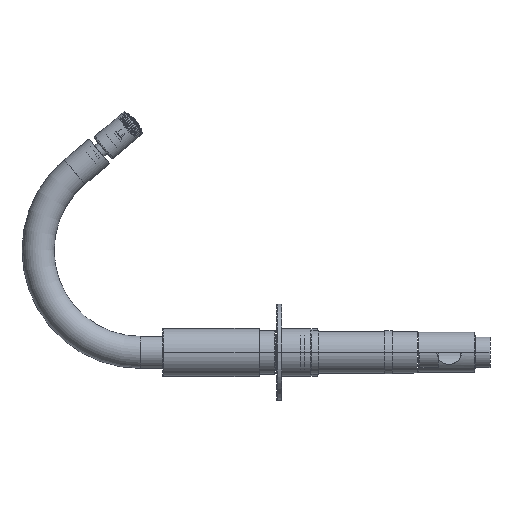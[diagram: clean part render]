
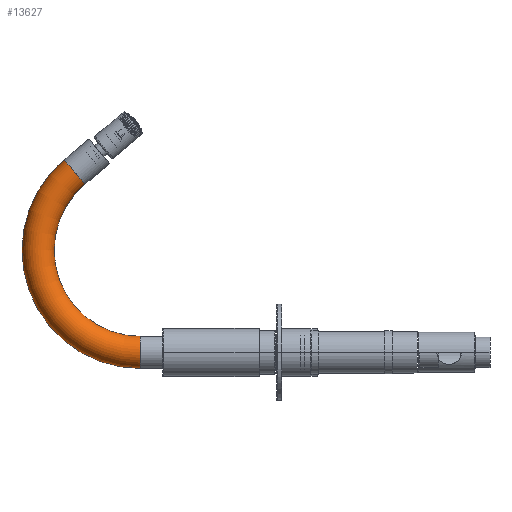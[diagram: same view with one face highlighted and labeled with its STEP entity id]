
A CAD part, left-side view. The second image highlights one B-rep face of the part: STEP entity #13627.
In plain terms, the highlighted toroidal (fillet/blend) face has major radius 63.5 mm and minor radius 10 mm.
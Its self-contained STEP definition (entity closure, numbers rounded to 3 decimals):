
#13261=CARTESIAN_POINT('',(63.5,85.,0.));
#13262=DIRECTION('',(0.,0.,-1.));
#13263=DIRECTION('',(-1.,0.,0.));
#13264=AXIS2_PLACEMENT_3D('',#13261,#13262,#13263);
#13266=CARTESIAN_POINT('',(0.,85.,0.));
#13267=DIRECTION('',(0.,1.,0.));
#13268=DIRECTION('',(-1.,0.,0.));
#13269=AXIS2_PLACEMENT_3D('',#13266,#13267,#13268);
#13271=CARTESIAN_POINT('',(63.5,85.,0.));
#13272=DIRECTION('',(0.,0.,-1.));
#13273=DIRECTION('',(-1.,0.,0.));
#13274=AXIS2_PLACEMENT_3D('',#13271,#13272,#13273);
#13276=CARTESIAN_POINT('',(112.144,125.817,0.));
#13277=DIRECTION('',(0.643,-0.766,0.));
#13278=DIRECTION('',(0.766,0.643,0.));
#13279=AXIS2_PLACEMENT_3D('',#13276,#13277,#13278);
#13494=CARTESIAN_POINT('',(-10.,85.,0.));
#13495=CARTESIAN_POINT('',(10.,85.,0.));
#13496=VERTEX_POINT('',#13494);
#13497=VERTEX_POINT('',#13495);
#13502=CARTESIAN_POINT('',(119.805,132.245,0.));
#13503=CARTESIAN_POINT('',(104.484,119.389,0.));
#13504=VERTEX_POINT('',#13502);
#13505=VERTEX_POINT('',#13503);
#13615=CARTESIAN_POINT('',(63.5,85.,0.));
#13616=DIRECTION('',(0.,0.,-1.));
#13617=DIRECTION('',(1.,0.,0.));
#13618=AXIS2_PLACEMENT_3D('',#13615,#13616,#13617);
#13619=TOROIDAL_SURFACE('',#13618,63.5,10.);
#13620=ORIENTED_EDGE('',*,*,#13580,.F.);
#13621=ORIENTED_EDGE('',*,*,#13610,.T.);
#13623=ORIENTED_EDGE('',*,*,#13622,.T.);
#13624=ORIENTED_EDGE('',*,*,#13606,.F.);
#13625=EDGE_LOOP('',(#13620,#13621,#13623,#13624));
#13626=FACE_OUTER_BOUND('',#13625,.F.);
#13627=ADVANCED_FACE('',(#13626),#13619,.T.);
#13265=CIRCLE('',#13264,53.5);
#13270=CIRCLE('',#13269,10.);
#13275=CIRCLE('',#13274,73.5);
#13280=CIRCLE('',#13279,10.);
#13580=EDGE_CURVE('',#13496,#13497,#13270,.T.);
#13606=EDGE_CURVE('',#13497,#13505,#13265,.T.);
#13610=EDGE_CURVE('',#13496,#13504,#13275,.T.);
#13622=EDGE_CURVE('',#13504,#13505,#13280,.T.);
